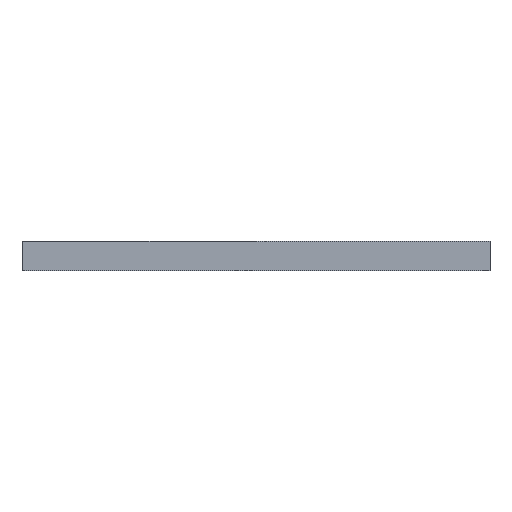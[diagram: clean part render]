
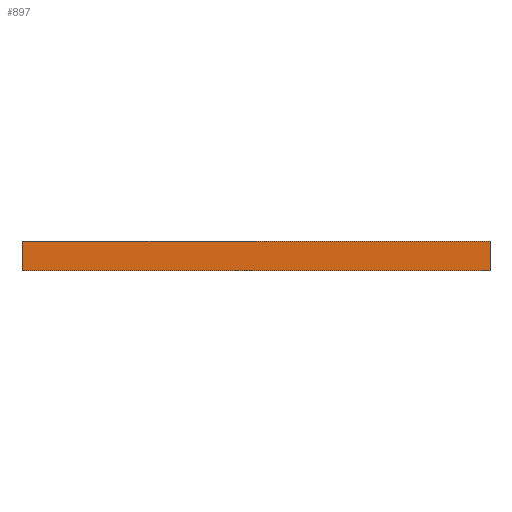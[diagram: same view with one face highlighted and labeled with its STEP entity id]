
A CAD part, left-side view. The second image highlights one B-rep face of the part: STEP entity #897.
In plain terms, the highlighted planar face has unit normal (-1, 0, 0).
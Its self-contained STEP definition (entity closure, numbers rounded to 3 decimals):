
#86 = ORIENTED_EDGE ( 'NONE', *, *, #345, .F. ) ;
#219 = CARTESIAN_POINT ( 'NONE',  ( 0., 24., 0. ) ) ;
#233 = EDGE_CURVE ( 'NONE', #572, #1257, #877, .T. ) ;
#319 = DIRECTION ( 'NONE',  ( 0., 1., 0. ) ) ;
#345 = EDGE_CURVE ( 'NONE', #1164, #420, #992, .T. ) ;
#398 = CARTESIAN_POINT ( 'NONE',  ( 0., 24., 0. ) ) ;
#399 = CARTESIAN_POINT ( 'NONE',  ( 0., -26., 3.175 ) ) ;
#420 = VERTEX_POINT ( 'NONE', #1372 ) ;
#455 = DIRECTION ( 'NONE',  ( 0., 0., -1. ) ) ;
#538 = CARTESIAN_POINT ( 'NONE',  ( 0., 24., 3.175 ) ) ;
#565 = DIRECTION ( 'NONE',  ( 0., -1., 0. ) ) ;
#572 = VERTEX_POINT ( 'NONE', #398 ) ;
#579 = VECTOR ( 'NONE', #1037, 1000. ) ;
#637 = DIRECTION ( 'NONE',  ( 0., 0., -1. ) ) ;
#681 = EDGE_LOOP ( 'NONE', ( #691, #988, #86, #756 ) ) ;
#691 = ORIENTED_EDGE ( 'NONE', *, *, #233, .T. ) ;
#700 = DIRECTION ( 'NONE',  ( 1., 0., 0. ) ) ;
#754 = VECTOR ( 'NONE', #637, 1000. ) ;
#756 = ORIENTED_EDGE ( 'NONE', *, *, #784, .T. ) ;
#772 = LINE ( 'NONE', #1033, #1319 ) ;
#784 = EDGE_CURVE ( 'NONE', #1164, #572, #772, .T. ) ;
#877 = LINE ( 'NONE', #219, #579 ) ;
#897 = ADVANCED_FACE ( 'NONE', ( #1456 ), #1153, .F. ) ;
#924 = CARTESIAN_POINT ( 'NONE',  ( 0., 24., 3.175 ) ) ;
#988 = ORIENTED_EDGE ( 'NONE', *, *, #1086, .F. ) ;
#992 = LINE ( 'NONE', #538, #1315 ) ;
#1014 = CARTESIAN_POINT ( 'NONE',  ( 0., 24., 3.175 ) ) ;
#1033 = CARTESIAN_POINT ( 'NONE',  ( 0., 24., 3.175 ) ) ;
#1037 = DIRECTION ( 'NONE',  ( 0., -1., 0. ) ) ;
#1054 = AXIS2_PLACEMENT_3D ( 'NONE', #924, #700, #319 ) ;
#1086 = EDGE_CURVE ( 'NONE', #420, #1257, #1261, .T. ) ;
#1153 = PLANE ( 'NONE',  #1054 ) ;
#1164 = VERTEX_POINT ( 'NONE', #1014 ) ;
#1257 = VERTEX_POINT ( 'NONE', #1411 ) ;
#1261 = LINE ( 'NONE', #399, #754 ) ;
#1315 = VECTOR ( 'NONE', #565, 1000. ) ;
#1319 = VECTOR ( 'NONE', #455, 1000. ) ;
#1372 = CARTESIAN_POINT ( 'NONE',  ( 0., -26., 3.175 ) ) ;
#1411 = CARTESIAN_POINT ( 'NONE',  ( 0., -26., 0. ) ) ;
#1456 = FACE_OUTER_BOUND ( 'NONE', #681, .T. ) ;
